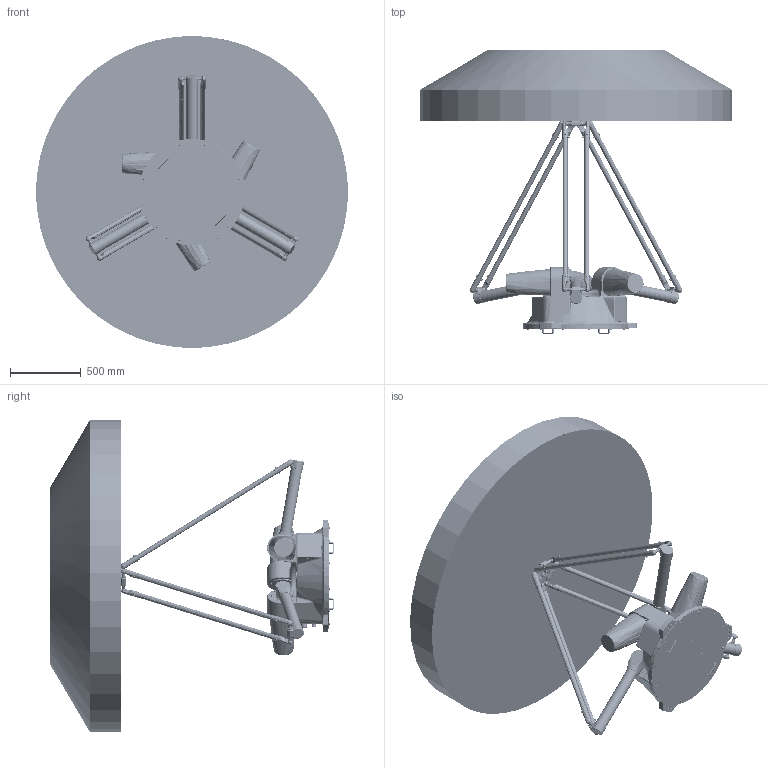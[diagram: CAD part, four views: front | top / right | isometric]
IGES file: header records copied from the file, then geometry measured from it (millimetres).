
Start section: SolidWorks IGES file using analytic representation for surfaces
Global section: file name: X:\03研发部\50-Robot\20-Delta\240-AP25X\10-Design\02-Mechanical\02-FDR 阶段资料\04-对外发布模型\AP25X-2200-1543外发模型\AP25X-2200-1543-T0-V1.0.0.IGS; native system: SolidWorks 2017; preprocessor: SolidWorks 2017; author: 1023; date: 240627.085755; units: millimetre
Bounding box: 2199.71 x 2003 x 2199.71 mm (x, y, z)
Surface area: 16108568.8 mm2 (no closed solid volume)
Topology: 0 solids, 0 shells, 7305 faces, 93925 edges, 93604 vertices
Faces by surface type: revolution 3920, bspline 3385
